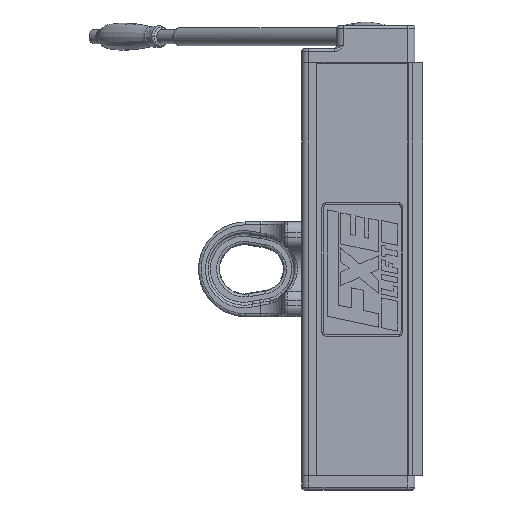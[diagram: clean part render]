
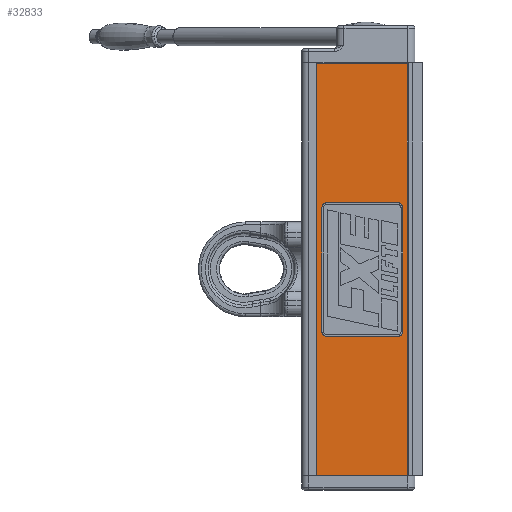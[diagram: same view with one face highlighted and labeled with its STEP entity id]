
A CAD part, left-side view. The second image highlights one B-rep face of the part: STEP entity #32833.
In plain terms, the highlighted planar face has unit normal (-1, 0, 0).
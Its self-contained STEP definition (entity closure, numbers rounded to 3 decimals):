
#494 = CARTESIAN_POINT ( 'NONE',  ( -113., 60.85, 85.87 ) ) ;
#655 = CARTESIAN_POINT ( 'NONE',  ( -113., 60.85, -86.87 ) ) ;
#1046 = AXIS2_PLACEMENT_3D ( 'NONE', #28882, #9892, #32021 ) ;
#1335 = VERTEX_POINT ( 'NONE', #15321 ) ;
#2244 = ORIENTED_EDGE ( 'NONE', *, *, #25888, .T. ) ;
#2255 = EDGE_CURVE ( 'NONE', #4551, #11414, #12321, .T. ) ;
#3765 = LINE ( 'NONE', #21790, #27983 ) ;
#3929 = VECTOR ( 'NONE', #38710, 1000. ) ;
#4001 = B_SPLINE_CURVE_WITH_KNOTS ( 'NONE', 3,
 ( #10131, #29109, #32262, #13335 ),
 .UNSPECIFIED., .F., .F.,
 ( 4, 4 ),
 ( 3., 4. ),
 .UNSPECIFIED. ) ;
#4309 = CARTESIAN_POINT ( 'NONE',  ( -113., -48.47, -93.906 ) ) ;
#4551 = VERTEX_POINT ( 'NONE', #494 ) ;
#5043 = VERTEX_POINT ( 'NONE', #38048 ) ;
#6796 = VERTEX_POINT ( 'NONE', #29621 ) ;
#6891 = VECTOR ( 'NONE', #26533, 1000. ) ;
#6960 = LINE ( 'NONE', #7916, #15362 ) ;
#7129 = VECTOR ( 'NONE', #7950, 1000. ) ;
#7916 = CARTESIAN_POINT ( 'NONE',  ( -113., -60., -288. ) ) ;
#7950 = DIRECTION ( 'NONE',  ( 0., 0., -1. ) ) ;
#9047 = LINE ( 'NONE', #39462, #7129 ) ;
#9755 = PLANE ( 'NONE',  #1046 ) ;
#9892 = DIRECTION ( 'NONE',  ( 1., 0., 0. ) ) ;
#10074 = CARTESIAN_POINT ( 'NONE',  ( -113., 57.469, -93.906 ) ) ;
#10131 = CARTESIAN_POINT ( 'NONE',  ( -113., -44.337, 92.906 ) ) ;
#10814 = DIRECTION ( 'NONE',  ( 0., -1., 0. ) ) ;
#10885 = CARTESIAN_POINT ( 'NONE',  ( -113., 4.5, -93.906 ) ) ;
#11301 = EDGE_CURVE ( 'NONE', #19277, #29606, #4001, .T. ) ;
#11414 = VERTEX_POINT ( 'NONE', #26186 ) ;
#11460 = VERTEX_POINT ( 'NONE', #24230 ) ;
#11545 = DIRECTION ( 'NONE',  ( 0., 0., 1. ) ) ;
#12235 = DIRECTION ( 'NONE',  ( 0., 0., -1. ) ) ;
#12321 = B_SPLINE_CURVE_WITH_KNOTS ( 'NONE', 3,
 ( #29371, #19717, #26176, #32526 ),
 .UNSPECIFIED., .F., .F.,
 ( 4, 4 ),
 ( 1., 2. ),
 .UNSPECIFIED. ) ;
#12745 = CARTESIAN_POINT ( 'NONE',  ( -113., 69., 287. ) ) ;
#13335 = CARTESIAN_POINT ( 'NONE',  ( -113., -51.85, 85.87 ) ) ;
#13696 = ORIENTED_EDGE ( 'NONE', *, *, #38231, .T. ) ;
#14294 = ORIENTED_EDGE ( 'NONE', *, *, #14430, .T. ) ;
#14430 = EDGE_CURVE ( 'NONE', #36603, #20408, #21717, .T. ) ;
#14743 = CARTESIAN_POINT ( 'NONE',  ( -113., -60., -288. ) ) ;
#15321 = CARTESIAN_POINT ( 'NONE',  ( -113., 53.337, -93.906 ) ) ;
#15362 = VECTOR ( 'NONE', #23859, 1000. ) ;
#15486 = FACE_BOUND ( 'NONE', #20453, .T. ) ;
#15649 = LINE ( 'NONE', #14743, #23094 ) ;
#16339 = CARTESIAN_POINT ( 'NONE',  ( -113., -44.337, 92.906 ) ) ;
#16896 = CARTESIAN_POINT ( 'NONE',  ( -113., -51.85, -86.87 ) ) ;
#16935 = EDGE_CURVE ( 'NONE', #22926, #6796, #6960, .T. ) ;
#17692 = EDGE_LOOP ( 'NONE', ( #14294, #34969, #34283, #28794 ) ) ;
#19276 = VERTEX_POINT ( 'NONE', #19535 ) ;
#19277 = VERTEX_POINT ( 'NONE', #16339 ) ;
#19535 = CARTESIAN_POINT ( 'NONE',  ( -113., -44.337, -93.906 ) ) ;
#19670 = CARTESIAN_POINT ( 'NONE',  ( -113., 60.85, -90.74 ) ) ;
#19717 = CARTESIAN_POINT ( 'NONE',  ( -113., 60.85, 89.74 ) ) ;
#20108 = CARTESIAN_POINT ( 'NONE',  ( -113., -51.85, -90.738 ) ) ;
#20408 = VERTEX_POINT ( 'NONE', #12745 ) ;
#20453 = EDGE_LOOP ( 'NONE', ( #39151, #13696, #36216, #2244, #36336, #22142, #23696, #23842 ) ) ;
#21717 = LINE ( 'NONE', #32388, #3929 ) ;
#21790 = CARTESIAN_POINT ( 'NONE',  ( -113., 69., -288. ) ) ;
#22142 = ORIENTED_EDGE ( 'NONE', *, *, #32544, .T. ) ;
#22926 = VERTEX_POINT ( 'NONE', #28569 ) ;
#23094 = VECTOR ( 'NONE', #11545, 1000. ) ;
#23696 = ORIENTED_EDGE ( 'NONE', *, *, #40179, .T. ) ;
#23842 = ORIENTED_EDGE ( 'NONE', *, *, #30036, .T. ) ;
#23859 = DIRECTION ( 'NONE',  ( 0., -1., 0. ) ) ;
#23903 = FACE_OUTER_BOUND ( 'NONE', #17692, .T. ) ;
#24230 = CARTESIAN_POINT ( 'NONE',  ( -113., 60.85, -86.87 ) ) ;
#25888 = EDGE_CURVE ( 'NONE', #11414, #19277, #36049, .T. ) ;
#26176 = CARTESIAN_POINT ( 'NONE',  ( -113., 57.467, 92.906 ) ) ;
#26186 = CARTESIAN_POINT ( 'NONE',  ( -113., 53.337, 92.906 ) ) ;
#26430 = CARTESIAN_POINT ( 'NONE',  ( -113., -44.337, -93.906 ) ) ;
#26533 = DIRECTION ( 'NONE',  ( 0., 1., 0. ) ) ;
#26594 = CARTESIAN_POINT ( 'NONE',  ( -113., 4.5, 92.906 ) ) ;
#27983 = VECTOR ( 'NONE', #12235, 1000. ) ;
#28569 = CARTESIAN_POINT ( 'NONE',  ( -113., 69., -288. ) ) ;
#28794 = ORIENTED_EDGE ( 'NONE', *, *, #37018, .T. ) ;
#28882 = CARTESIAN_POINT ( 'NONE',  ( -113., 4.5, -0.5 ) ) ;
#29109 = CARTESIAN_POINT ( 'NONE',  ( -113., -48.467, 92.906 ) ) ;
#29371 = CARTESIAN_POINT ( 'NONE',  ( -113., 60.85, 85.87 ) ) ;
#29606 = VERTEX_POINT ( 'NONE', #40203 ) ;
#29621 = CARTESIAN_POINT ( 'NONE',  ( -113., -60., -288. ) ) ;
#30036 = EDGE_CURVE ( 'NONE', #19276, #1335, #32130, .T. ) ;
#30731 = LINE ( 'NONE', #33181, #38116 ) ;
#30940 = CARTESIAN_POINT ( 'NONE',  ( -113., -60., 287. ) ) ;
#32021 = DIRECTION ( 'NONE',  ( 0., 1., 0. ) ) ;
#32130 = LINE ( 'NONE', #10885, #6891 ) ;
#32196 = CARTESIAN_POINT ( 'NONE',  ( -113., 53.337, -93.906 ) ) ;
#32262 = CARTESIAN_POINT ( 'NONE',  ( -113., -51.85, 89.739 ) ) ;
#32388 = CARTESIAN_POINT ( 'NONE',  ( -113., -60., 287. ) ) ;
#32526 = CARTESIAN_POINT ( 'NONE',  ( -113., 53.337, 92.906 ) ) ;
#32544 = EDGE_CURVE ( 'NONE', #29606, #5043, #9047, .T. ) ;
#32833 = ADVANCED_FACE ( 'NONE', ( #23903, #15486 ), #9755, .F. ) ;
#32860 = B_SPLINE_CURVE_WITH_KNOTS ( 'NONE', 3,
 ( #32196, #10074, #19670, #655 ),
 .UNSPECIFIED., .F., .F.,
 ( 4, 4 ),
 ( 7., 8. ),
 .UNSPECIFIED. ) ;
#33181 = CARTESIAN_POINT ( 'NONE',  ( -113., 60.85, -0.5 ) ) ;
#33457 = DIRECTION ( 'NONE',  ( 0., 0., 1. ) ) ;
#33923 = EDGE_CURVE ( 'NONE', #1335, #11460, #32860, .T. ) ;
#34043 = VECTOR ( 'NONE', #10814, 1000. ) ;
#34101 = B_SPLINE_CURVE_WITH_KNOTS ( 'NONE', 3,
 ( #16896, #20108, #4309, #26430 ),
 .UNSPECIFIED., .F., .F.,
 ( 4, 4 ),
 ( 5., 6. ),
 .UNSPECIFIED. ) ;
#34283 = ORIENTED_EDGE ( 'NONE', *, *, #16935, .T. ) ;
#34969 = ORIENTED_EDGE ( 'NONE', *, *, #37218, .T. ) ;
#36049 = LINE ( 'NONE', #26594, #34043 ) ;
#36216 = ORIENTED_EDGE ( 'NONE', *, *, #2255, .T. ) ;
#36336 = ORIENTED_EDGE ( 'NONE', *, *, #11301, .T. ) ;
#36603 = VERTEX_POINT ( 'NONE', #30940 ) ;
#37018 = EDGE_CURVE ( 'NONE', #6796, #36603, #15649, .T. ) ;
#37218 = EDGE_CURVE ( 'NONE', #20408, #22926, #3765, .T. ) ;
#38048 = CARTESIAN_POINT ( 'NONE',  ( -113., -51.85, -86.87 ) ) ;
#38116 = VECTOR ( 'NONE', #33457, 1000. ) ;
#38231 = EDGE_CURVE ( 'NONE', #11460, #4551, #30731, .T. ) ;
#38710 = DIRECTION ( 'NONE',  ( 0., 1., 0. ) ) ;
#39151 = ORIENTED_EDGE ( 'NONE', *, *, #33923, .T. ) ;
#39462 = CARTESIAN_POINT ( 'NONE',  ( -113., -51.85, -0.5 ) ) ;
#40179 = EDGE_CURVE ( 'NONE', #5043, #19276, #34101, .T. ) ;
#40203 = CARTESIAN_POINT ( 'NONE',  ( -113., -51.85, 85.87 ) ) ;
